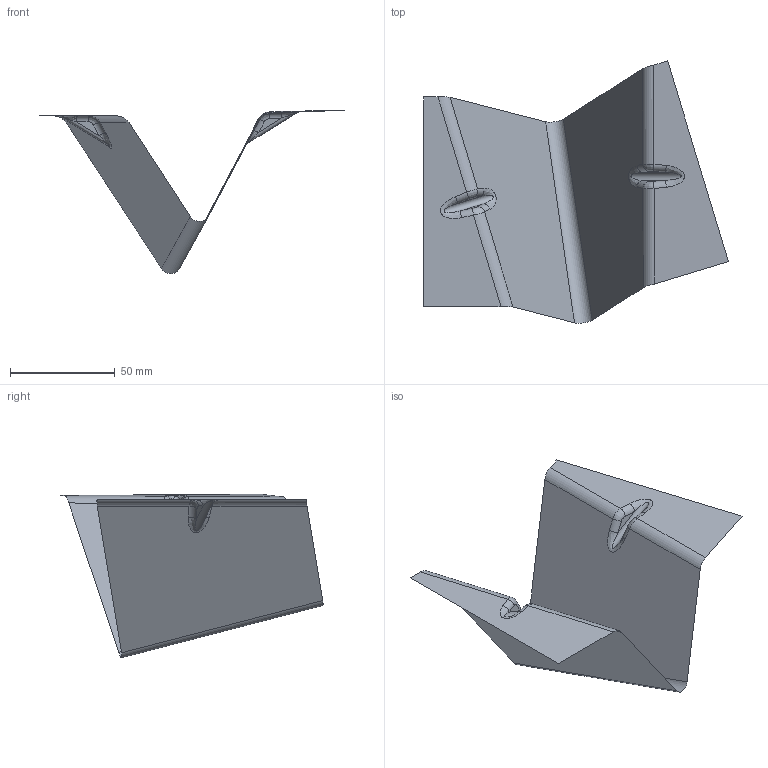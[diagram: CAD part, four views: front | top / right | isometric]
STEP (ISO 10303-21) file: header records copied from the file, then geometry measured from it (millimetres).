
FILE_DESCRIPTION(('CATIA V5 STEP Exchange'),'2;1');
FILE_NAME('C:\_Andres\UNIVERSIDAD\IQS\ASIGNATURAS\DAO\EXF\EXF-16172c\2inicio\Beteta_Pozo_Ej03_v3.stp','2017-03-05T19:32:02+00:00',('none'),('none'),'CATIA Version 5-6 Release 2014 SP1 HF18','CATIA V5 STEP AP203','none');
FILE_SCHEMA(('CONFIG_CONTROL_DESIGN'));
Length unit declared in the file: millimetre
Products named in the file (1): Beteta_Pozo_Ej03_v3
Bounding box: 145.34 x 124.99 x 77.9 mm (x, y, z)
Surface area: 20843.7 mm2 (no closed solid volume)
Topology: 0 solids, 1 shells, 31 faces, 78 edges, 48 vertices
Faces by surface type: cylinder 15, plane 8, bspline 8
Entity records: 2347 total; most frequent: CARTESIAN_POINT 1674, ORIENTED_EDGE 140, DIRECTION 90, EDGE_CURVE 78, VERTEX_POINT 48, VECTOR 40, LINE 40, ADVANCED_FACE 31
